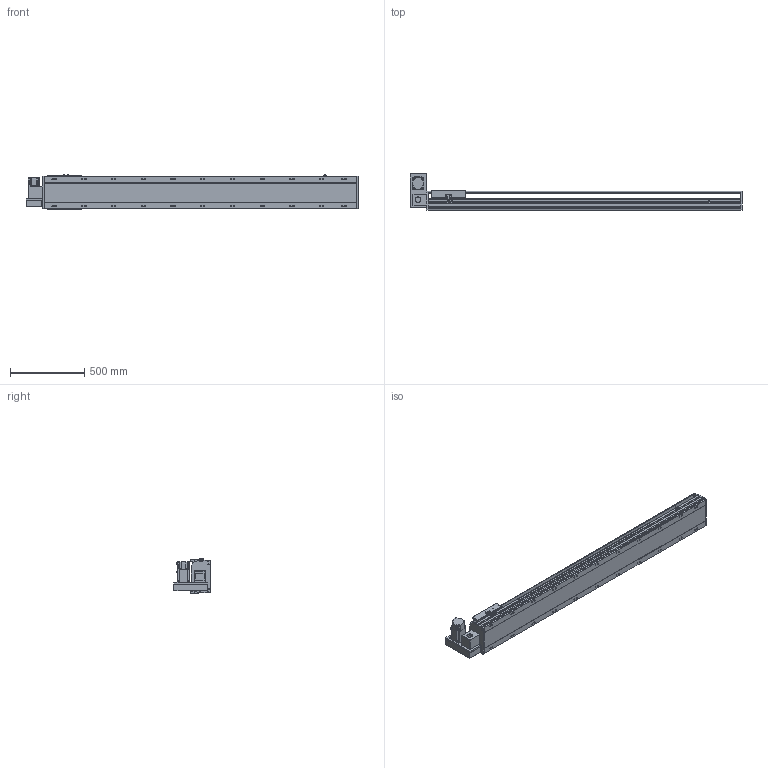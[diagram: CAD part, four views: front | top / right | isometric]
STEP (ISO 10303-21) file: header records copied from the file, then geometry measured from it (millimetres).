
FILE_DESCRIPTION(/* description */ ('STEP AP214'),/* implementation_level */ '2;1');
FILE_NAME(/* name */ 'PBS220-P40-S1750-LU-T75-C1-N(0)',/* time_stamp */ '2022-06-13T02:30:43+02:00',/* author */ ('License CC BY-ND 4.0'),/* organization */ ('CADENAS'),/* preprocessor_version */ 'ST-DEVELOPER v18.102',/* originating_system */ 'PARTsolutions',/* authorisation */ ' ');
FILE_SCHEMA (('AUTOMOTIVE_DESIGN {1 0 10303 214 3 1 1}'));
Length unit declared in the file: millimetre
Products named in the file (7): PBS220-P40-S1750-LU-T75-C1-N(0); PBS220_sensor; PBS220_plant; PBS220_sliser; T75-p1; PBS220T-LU_motors; PBS220-S1750()_body
Assembly tree (8 placements, depth 2):
  PBS220-P40-S1750-LU-T75-C1-N(0)
    PBS220_sensor  x3
    PBS220_plant
    PBS220_sliser
    T75-p1
    PBS220T-LU_motors
    PBS220-S1750()_body
Bounding box: 2234 x 247 x 238.5 mm (x, y, z)
Volume: 31559147.5 mm3; surface area: 2959468 mm2
Topology: 8 solids, 8 shells, 950 faces, 2480 edges, 1612 vertices
Faces by surface type: plane 610, cylinder 294, cone 46
Full cylindrical faces by diameter (mm): 2.013 x4, 4.5 x14, 4.917 x4, 6 x7, 6.647 x8, 8 x10, 8.376 x22, 8.5 x22, 10 x6, 14 x22, 38 x2, 40 x1, 70 x1
Entity records: 26565 total; most frequent: CARTESIAN_POINT 4690, DIRECTION 4617, ORIENTED_EDGE 4214, EDGE_CURVE 2107, AXIS2_PLACEMENT_3D 1633, VERTEX_POINT 1464, LINE 1351, VECTOR 1351
